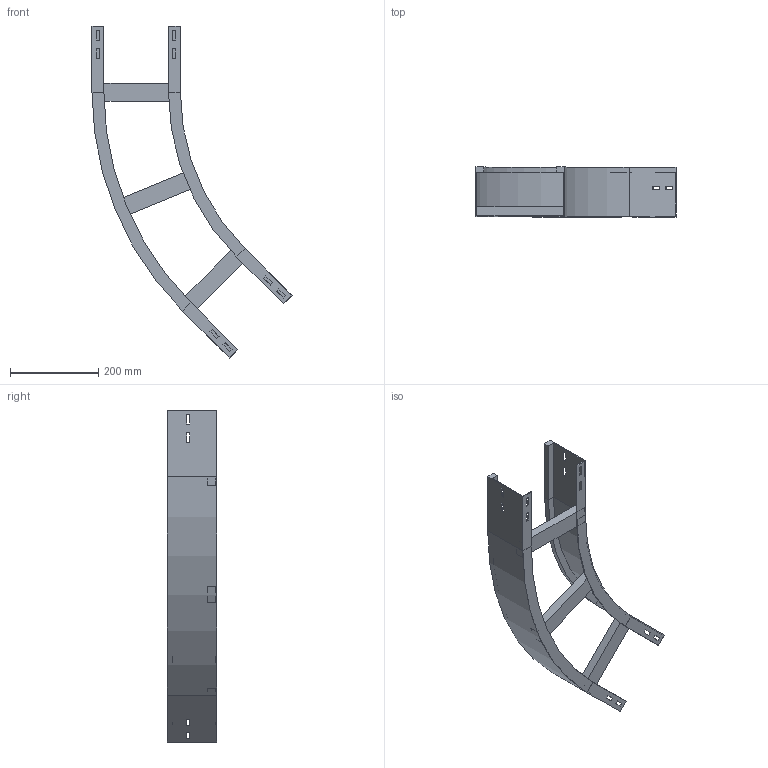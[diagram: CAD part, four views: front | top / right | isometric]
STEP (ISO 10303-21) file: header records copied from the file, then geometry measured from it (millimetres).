
FILE_DESCRIPTION (( 'STEP AP214' ), '1' );
FILE_NAME ('11B5J200.step', '2025-02-21T15:13:24', ( '' ), ( '' ), 'SwSTEP 2.0', 'SolidWorks 2023', '' );
FILE_SCHEMA (( 'AUTOMOTIVE_DESIGN' ));
Length unit declared in the file: millimetre
Products named in the file (4): A2_LONGH.ESTERNO 45°_H112.5_R500+200; A2_LONGH.INTERNO 45°_H112.5_R500; TRAVERSINO_200; 11B5J200
Assembly tree (5 placements, depth 2):
  11B5J200
    A2_LONGH.INTERNO 45°_H112.5_R500
    A2_LONGH.ESTERNO 45°_H112.5_R500+200
    TRAVERSINO_200  x3
Bounding box: 452.51 x 112.5 x 751.04 mm (x, y, z)
Volume: 1191689.1 mm3; surface area: 554514.6 mm2
Topology: 5 solids, 5 shells, 134 faces, 340 edges, 216 vertices
Faces by surface type: plane 126, cylinder 8
Entity records: 3821 total; most frequent: CARTESIAN_POINT 646, ORIENTED_EDGE 632, DIRECTION 592, EDGE_CURVE 316, LINE 300, VECTOR 300, VERTEX_POINT 200, EDGE_LOOP 154
